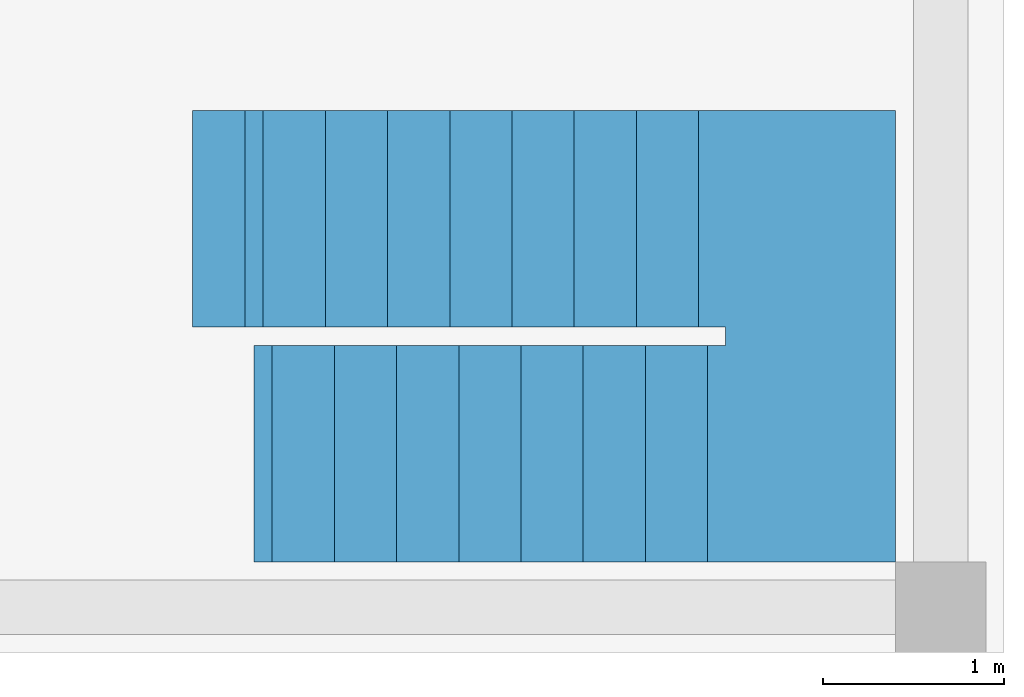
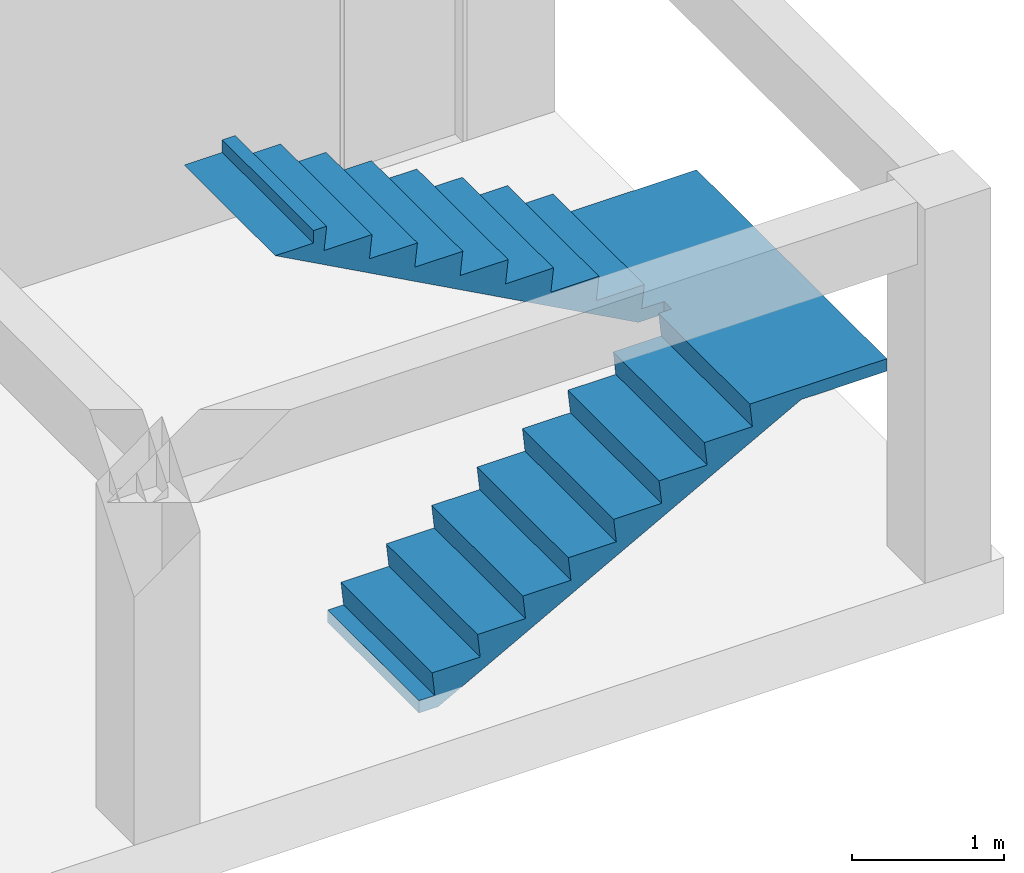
# One storey, part 2 of 2: 1 stair.
"""IFC2X3 building model written with IfcOpenShell, lengths in millimetres."""

from ifc_helpers import new_model, entity, si_unit, converted_unit, direction, frame, origin_with_axes, place, context, project, spatial, faceted_brep, material, element, save


model = new_model("IFC2X3")

# Units and contexts
model_context = context("Model", 3, precision=1e-05, world=origin_with_axes(), true_north=direction((6.123234e-17, 1.0)))
plan_context = context("Plan", 3, precision=1e-05, world=origin_with_axes(), true_north=direction((6.123234e-17, 1.0)))
ifc_project = project(units=[si_unit("LENGTHUNIT", "METRE", prefix="MILLI"), si_unit("AREAUNIT", "SQUARE_METRE"), si_unit("VOLUMEUNIT", "CUBIC_METRE"), converted_unit("PLANEANGLEUNIT", "DEGREE", entity("IfcPlaneAngleMeasure", 0.017453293), si_unit("PLANEANGLEUNIT", "RADIAN"), dimensions=[0, 0, 0, 0, 0, 0, 0]), si_unit("SOLIDANGLEUNIT", "STERADIAN"), si_unit("MASSUNIT", "GRAM"), si_unit("TIMEUNIT", "SECOND"), si_unit("THERMODYNAMICTEMPERATUREUNIT", "DEGREE_CELSIUS"), si_unit("LUMINOUSINTENSITYUNIT", "LUMEN")], contexts=[model_context, plan_context])

# Site, building, storey
site_placement = place(None, origin_with_axes())
site = spatial("IfcSite", under=ifc_project, at=site_placement, Name="\x8aO\x8d\\", CompositionType="ELEMENT")
building_placement = place(site_placement, origin_with_axes())
building = spatial("IfcBuilding", under=site, at=building_placement, Name="20101105_ArchCADMagic_002", CompositionType="ELEMENT")
storey_placement = place(building_placement, frame((0.0, 0.0, 450.0), z_axis=(0.0, 0.0, 1.0), x_axis=(1.0, 0.0, 0.0)))
storey = spatial("IfcBuildingStorey", under=building, at=storey_placement, Name="0. 1\x8aK", CompositionType="ELEMENT", Elevation=450.0)

# Stair
ifc_material = material(Name="\x94w\x8ci")
stair_placement = place(storey_placement, frame((20150.0, 250.0, 0.0), z_axis=(0.0, 0.0, 1.0), x_axis=(-1.6081226e-16, -1.0, 0.0)))
element("IfcStair", 1, at=stair_placement, inside=storey, material=ifc_material, Name="K3", ShapeType="NOTDEFINED", context=model_context, shape_type="Brep", body=[
    faceted_brep([(-5.5511151e-14, 50.0, -100.0), (-1200.0, 50.0, -100.0), (-1200.0, 195.46475, -100.0), (-5.5511151e-14, 195.46475, -100.0), (-5.5511151e-14, 50.0, 0.0), (-1200.0, 50.0, 0.0), (-1200.0, 170.0, 0.0), (-1200.0, 150.0, 187.5), (-1200.0, 514.28282, 187.5), (-1200.0, 494.28282, 375.0), (-1200.0, 858.56564, 375.0), (-1200.0, 838.56564, 562.5), (-1200.0, 1202.8485, 562.5), (-1200.0, 1182.8485, 750.0), (-1200.0, 1547.1313, 750.0), (-1200.0, 1527.1313, 937.5), (-1200.0, 1891.4141, 937.5), (-1200.0, 1871.4141, 1125.0), (-1200.0, 2235.6969, 1125.0), (-1200.0, 2215.6969, 1312.5), (-1200.0, 2579.9798, 1312.5), (-1200.0, 2559.9798, 1500.0), (-1200.0, 2659.9798, 1500.0), (-1200.0, 2659.9798, 1400.0), (-1200.0, 2949.7273, 1400.0), (-1.6653345e-13, 2949.7273, 1400.0), (-1.110223e-13, 2659.9798, 1400.0), (-1.110223e-13, 2659.9798, 1500.0), (-1.110223e-13, 2559.9798, 1500.0), (-1.110223e-13, 2579.9798, 1312.5), (-1.110223e-13, 2215.6969, 1312.5), (-1.110223e-13, 2235.6969, 1125.0), (-1.110223e-13, 1871.4141, 1125.0), (-1.110223e-13, 1891.4141, 937.5), (-1.110223e-13, 1527.1313, 937.5), (-1.110223e-13, 1547.1313, 750.0), (-1.110223e-13, 1182.8485, 750.0), (-5.5511151e-14, 1202.8485, 562.5), (-5.5511151e-14, 838.56564, 562.5), (-5.5511151e-14, 858.56564, 375.0), (-5.5511151e-14, 494.28282, 375.0), (-5.5511151e-14, 514.28282, 187.5), (-5.5511151e-14, 150.0, 187.5), (-5.5511151e-14, 170.0, 0.0)], [[[0, 1, 2, 3]], [[4, 5, 1, 0]], [[1, 5, 6, 7, 8, 9, 10, 11, 12, 13, 14, 15, 16, 17, 18, 19, 20, 21, 22, 23, 24, 2]], [[3, 2, 24, 25]], [[0, 3, 25, 26, 27, 28, 29, 30, 31, 32, 33, 34, 35, 36, 37, 38, 39, 40, 41, 42, 43, 4]], [[43, 6, 5, 4]], [[42, 7, 6, 43]], [[41, 8, 7, 42]], [[40, 9, 8, 41]], [[39, 10, 9, 40]], [[38, 11, 10, 39]], [[37, 12, 11, 38]], [[36, 13, 12, 37]], [[35, 14, 13, 36]], [[34, 15, 14, 35]], [[33, 16, 15, 34]], [[32, 17, 16, 33]], [[31, 18, 17, 32]], [[30, 19, 18, 31]], [[29, 20, 19, 30]], [[28, 21, 20, 29]], [[27, 22, 21, 28]], [[26, 23, 22, 27]], [[25, 24, 23, 26]]]),
    faceted_brep([(-2500.0, 2659.9798, 1400.0), (-1300.0, 2659.9798, 1400.0), (-1300.0, 2464.515, 1400.0), (-2500.0, 2464.515, 1400.0), (-2500.0, 2659.9798, 1500.0), (-1300.0, 2659.9798, 1500.0), (-1300.0, 2489.9798, 1500.0), (-1300.0, 2509.9798, 1687.5), (-1300.0, 2145.6969, 1687.5), (-1300.0, 2165.6969, 1875.0), (-1300.0, 1801.4141, 1875.0), (-1300.0, 1821.4141, 2062.5), (-1300.0, 1457.1313, 2062.5), (-1300.0, 1477.1313, 2250.0), (-1300.0, 1112.8485, 2250.0), (-1300.0, 1132.8485, 2437.5), (-1300.0, 768.56564, 2437.5), (-1300.0, 788.56564, 2625.0), (-1300.0, 424.28282, 2625.0), (-1300.0, 444.28282, 2812.5), (-1300.0, 80.0, 2812.5), (-1300.0, 100.0, 3000.0), (-1300.0, 3.5527137e-12, 3000.0), (-1300.0, 3.5527137e-12, 2900.0), (-1300.0, -289.74757, 2900.0), (-2500.0, -289.74757, 2900.0), (-2500.0, 3.5527137e-12, 2900.0), (-2500.0, 3.5527137e-12, 3000.0), (-2500.0, 100.0, 3000.0), (-2500.0, 80.0, 2812.5), (-2500.0, 444.28282, 2812.5), (-2500.0, 424.28282, 2625.0), (-2500.0, 788.56564, 2625.0), (-2500.0, 768.56564, 2437.5), (-2500.0, 1132.8485, 2437.5), (-2500.0, 1112.8485, 2250.0), (-2500.0, 1477.1313, 2250.0), (-2500.0, 1457.1313, 2062.5), (-2500.0, 1821.4141, 2062.5), (-2500.0, 1801.4141, 1875.0), (-2500.0, 2165.6969, 1875.0), (-2500.0, 2145.6969, 1687.5), (-2500.0, 2509.9798, 1687.5), (-2500.0, 2489.9798, 1500.0)], [[[0, 1, 2, 3]], [[4, 5, 1, 0]], [[1, 5, 6, 7, 8, 9, 10, 11, 12, 13, 14, 15, 16, 17, 18, 19, 20, 21, 22, 23, 24, 2]], [[3, 2, 24, 25]], [[0, 3, 25, 26, 27, 28, 29, 30, 31, 32, 33, 34, 35, 36, 37, 38, 39, 40, 41, 42, 43, 4]], [[43, 6, 5, 4]], [[42, 7, 6, 43]], [[41, 8, 7, 42]], [[40, 9, 8, 41]], [[39, 10, 9, 40]], [[38, 11, 10, 39]], [[37, 12, 11, 38]], [[36, 13, 12, 37]], [[35, 14, 13, 36]], [[34, 15, 14, 35]], [[33, 16, 15, 34]], [[32, 17, 16, 33]], [[31, 18, 17, 32]], [[30, 19, 18, 31]], [[29, 20, 19, 30]], [[28, 21, 20, 29]], [[27, 22, 21, 28]], [[26, 23, 22, 27]], [[25, 24, 23, 26]]]),
    faceted_brep([(0.0, 2659.9798, 1400.0), (0.0, 2659.9798, 1500.0), (-1200.0, 2659.9798, 1500.0), (-1200.0, 2659.9798, 1400.0), (5.5511151e-14, 2949.7273, 1400.0), (5.5511151e-14, 2949.7273, 1500.0), (5.5511151e-14, 3600.0, 1500.0), (-2500.0, 3600.0, 1500.0), (-2500.0, 2659.9798, 1500.0), (-1300.0, 2659.9798, 1500.0), (-1300.0, 2659.9798, 1400.0), (-2500.0, 2659.9798, 1400.0), (-2500.0, 3600.0, 1400.0), (5.5511151e-14, 3600.0, 1400.0)], [[[0, 1, 2, 3]], [[4, 5, 1, 0]], [[1, 5, 6, 7, 8, 9, 2]], [[3, 2, 9, 10]], [[0, 3, 10, 11, 12, 13, 4]], [[13, 6, 5, 4]], [[12, 7, 6, 13]], [[11, 8, 7, 12]], [[10, 9, 8, 11]]]),
])

save(model, "model.ifc")
